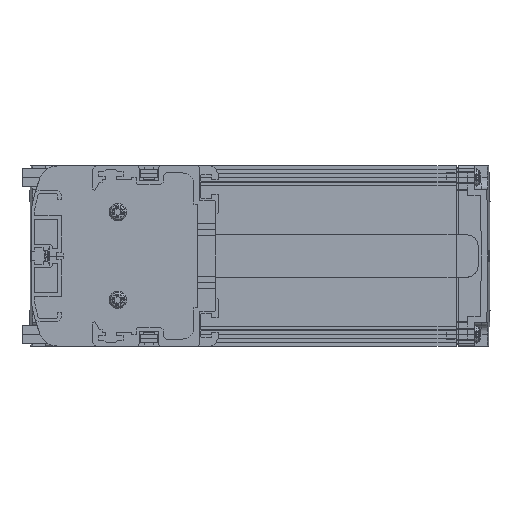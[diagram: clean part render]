
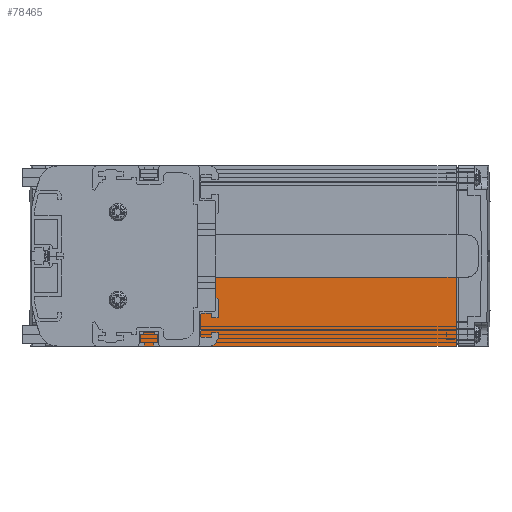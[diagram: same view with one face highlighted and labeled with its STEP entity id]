
A CAD part, left-side view. The second image highlights one B-rep face of the part: STEP entity #78465.
In plain terms, the highlighted planar face has unit normal (-1, 0, 0).
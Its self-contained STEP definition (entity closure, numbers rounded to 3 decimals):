
#76406=DIRECTION('',(0.,1.,0.));
#76407=VECTOR('',#76406,51.);
#76408=CARTESIAN_POINT('',(3.,16.,-27.));
#76409=LINE('',#76408,#76407);
#77055=DIRECTION('',(0.,1.,0.));
#77056=VECTOR('',#77055,170.);
#77057=CARTESIAN_POINT('',(3.,-103.,-39.));
#77058=LINE('',#77057,#77056);
#77073=DIRECTION('',(0.,0.,1.));
#77074=VECTOR('',#77073,29.9);
#77075=CARTESIAN_POINT('',(3.,-103.,-39.));
#77076=LINE('',#77075,#77074);
#77077=DIRECTION('',(0.,0.,-1.));
#77078=VECTOR('',#77077,12.);
#77079=CARTESIAN_POINT('',(3.,67.,-27.));
#77080=LINE('',#77079,#77078);
#77081=DIRECTION('',(0.,0.,-1.));
#77082=VECTOR('',#77081,17.9);
#77083=CARTESIAN_POINT('',(3.,16.,-9.1));
#77084=LINE('',#77083,#77082);
#77191=DIRECTION('',(0.,1.,0.));
#77192=VECTOR('',#77191,119.);
#77193=CARTESIAN_POINT('',(3.,-103.,-9.1));
#77194=LINE('',#77193,#77192);
#77278=CARTESIAN_POINT('',(3.,67.,-27.));
#77280=VERTEX_POINT('',#77278);
#77372=CARTESIAN_POINT('',(3.,67.,-39.));
#77373=VERTEX_POINT('',#77372);
#77446=CARTESIAN_POINT('',(3.,-103.,-39.));
#77447=VERTEX_POINT('',#77446);
#77448=CARTESIAN_POINT('',(3.,-103.,-9.1));
#77449=VERTEX_POINT('',#77448);
#77510=CARTESIAN_POINT('',(3.,16.,-27.));
#77511=VERTEX_POINT('',#77510);
#77512=CARTESIAN_POINT('',(3.,16.,-9.1));
#77513=VERTEX_POINT('',#77512);
#78450=CARTESIAN_POINT('',(3.,-18.,-24.05));
#78451=DIRECTION('',(1.,0.,0.));
#78452=DIRECTION('',(0.,0.,-1.));
#78453=AXIS2_PLACEMENT_3D('',#78450,#78451,#78452);
#78454=PLANE('',#78453);
#78455=ORIENTED_EDGE('',*,*,#77696,.F.);
#78457=ORIENTED_EDGE('',*,*,#78456,.F.);
#78459=ORIENTED_EDGE('',*,*,#78458,.F.);
#78460=ORIENTED_EDGE('',*,*,#78024,.F.);
#78461=ORIENTED_EDGE('',*,*,#78438,.T.);
#78462=ORIENTED_EDGE('',*,*,#77565,.F.);
#78463=EDGE_LOOP('',(#78455,#78457,#78459,#78460,#78461,#78462));
#78464=FACE_OUTER_BOUND('',#78463,.F.);
#78465=ADVANCED_FACE('',(#78464),#78454,.F.);
#77565=EDGE_CURVE('',#77280,#77373,#77080,.T.);
#77696=EDGE_CURVE('',#77511,#77280,#76409,.T.);
#78024=EDGE_CURVE('',#77447,#77449,#77076,.T.);
#78438=EDGE_CURVE('',#77447,#77373,#77058,.T.);
#78456=EDGE_CURVE('',#77513,#77511,#77084,.T.);
#78458=EDGE_CURVE('',#77449,#77513,#77194,.T.);
